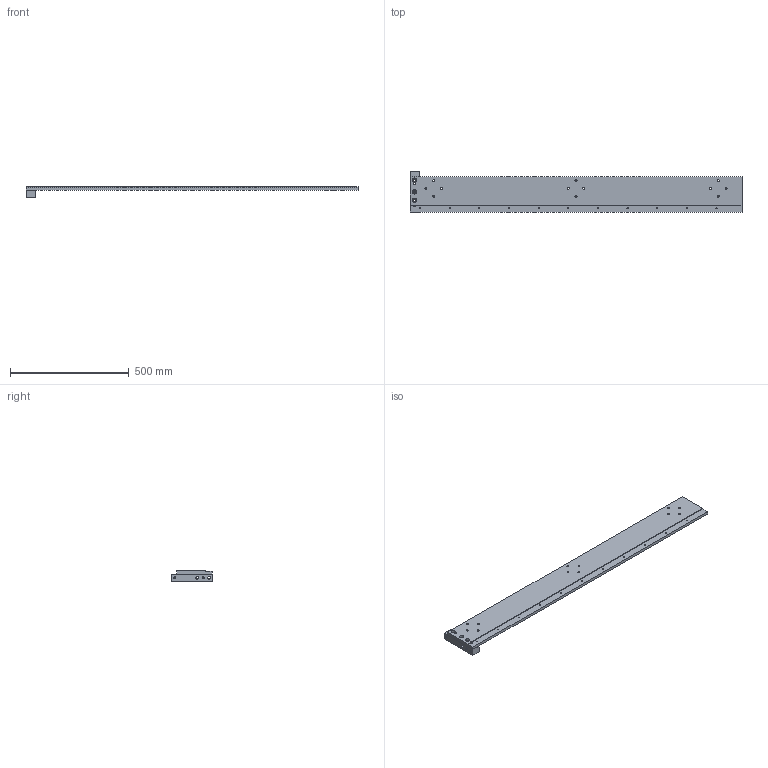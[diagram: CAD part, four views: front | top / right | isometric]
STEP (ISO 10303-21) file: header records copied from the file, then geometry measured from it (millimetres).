
FILE_DESCRIPTION(/* description */ (''),/* implementation_level */ '2;1');
FILE_NAME(/* name */ '040_piatto_guida.stp',/* time_stamp */ '2020-01-08T11:40:15+01:00',/* author */ (''),/* organization */ (''),/* preprocessor_version */ 'ST-DEVELOPER v16.7',/* originating_system */ 'SIEMENS PLM Software NX 12.0',/* authorisation */ '');
FILE_SCHEMA (('AUTOMOTIVE_DESIGN { 1 0 10303 214 3 1 1 1 }'));
Length unit declared in the file: millimetre
Products named in the file (1): bez2C70411Cqcvz
Bounding box: 1400 x 170 x 45 mm (x, y, z)
Volume: 3180183.9 mm3; surface area: 506197.3 mm2
Topology: 2 solids, 2 shells, 58 faces, 166 edges, 111 vertices
Faces by surface type: cylinder 40, plane 15, cone 3
Full cylindrical faces by diameter (mm): 5 x11, 8 x12, 8.5 x9, 11 x5, 18 x3
Entity records: 1837 total; most frequent: DIRECTION 314, CARTESIAN_POINT 277, ORIENTED_EDGE 230, EDGE_LOOP 174, FACE_BOUND 166, AXIS2_PLACEMENT_3D 140, EDGE_CURVE 115, VERTEX_POINT 103
